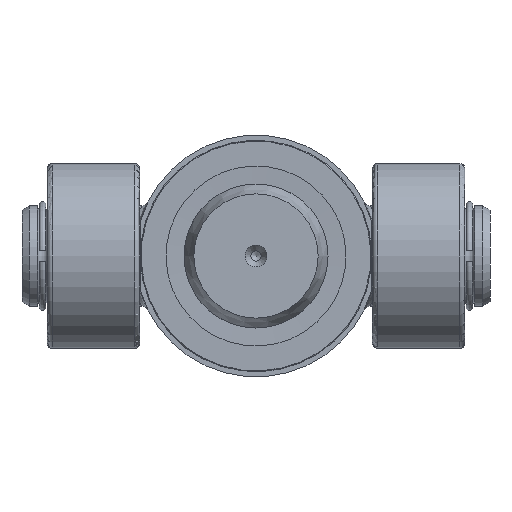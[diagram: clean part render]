
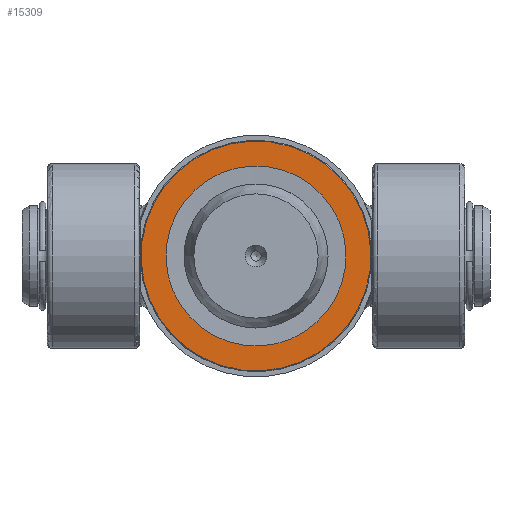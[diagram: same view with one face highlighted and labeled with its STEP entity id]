
A CAD part, front view. The second image highlights one B-rep face of the part: STEP entity #15309.
In plain terms, the highlighted planar face has unit normal (0, -1, 0) as drawn and (0, 0, -1) by its records, which use the part's own axes.
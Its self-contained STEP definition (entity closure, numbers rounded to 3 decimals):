
#3565=PLANE('',#16393);
#3764=FACE_BOUND('',#5586,.T.);
#4616=FACE_OUTER_BOUND('',#5585,.T.);
#5585=EDGE_LOOP('',(#14300));
#5586=EDGE_LOOP('',(#14301));
#5979=CIRCLE('',#16392,44.7);
#5980=CIRCLE('',#16394,35.);
#7514=VERTEX_POINT('',#33525);
#7515=VERTEX_POINT('',#33528);
#9778=EDGE_CURVE('',#7514,#7514,#5979,.T.);
#9779=EDGE_CURVE('',#7515,#7515,#5980,.T.);
#14300=ORIENTED_EDGE('',*,*,#9778,.F.);
#14301=ORIENTED_EDGE('',*,*,#9779,.T.);
#15309=ADVANCED_FACE('',(#4616,#3764),#3565,.F.);
#16392=AXIS2_PLACEMENT_3D('',#33526,#19396,#19397);
#16393=AXIS2_PLACEMENT_3D('',#33527,#19398,#19399);
#16394=AXIS2_PLACEMENT_3D('',#33529,#19400,#19401);
#19396=DIRECTION('center_axis',(0.,0.,1.));
#19397=DIRECTION('ref_axis',(-1.,0.,0.));
#19398=DIRECTION('center_axis',(0.,0.,1.));
#19399=DIRECTION('ref_axis',(1.,0.,0.));
#19400=DIRECTION('center_axis',(0.,0.,1.));
#19401=DIRECTION('ref_axis',(0.,-1.,0.));
#33525=CARTESIAN_POINT('',(44.7,0.,0.));
#33526=CARTESIAN_POINT('Origin',(0.,0.,0.));
#33527=CARTESIAN_POINT('Origin',(0.,0.,0.));
#33528=CARTESIAN_POINT('',(0.,-35.,0.));
#33529=CARTESIAN_POINT('Origin',(0.,0.,0.));
